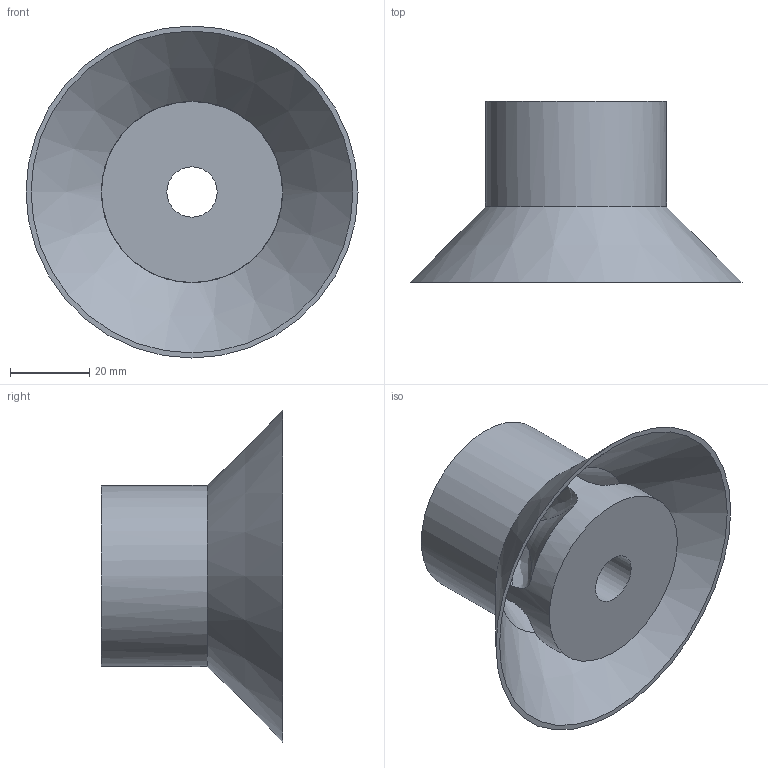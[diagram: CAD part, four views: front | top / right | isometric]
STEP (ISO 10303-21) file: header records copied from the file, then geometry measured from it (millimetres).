
FILE_DESCRIPTION(/* description */ (''),/* implementation_level */ '2;1');
FILE_NAME(/* name */ 'C:/Users/Owner/Desktop/KCAD 3Dp Fuel Filter Baffles Gen1/STEP Versions/1.8DIAx1.8 High Baffles STEP/1.8 Dia 50 CAL Baffle STEP.step',/* time_stamp */ '2019-06-01T15:56:55-04:00',/* author */ (''),/* organization */ (''),/* preprocessor_version */ 'ST-DEVELOPER v18',/* originating_system */ 'Autodesk Translation Framework v8.2.0.1029',/* authorisation */ '');
FILE_SCHEMA (('AUTOMOTIVE_DESIGN { 1 0 10303 214 3 1 1 }'));
Length unit declared in the file: inch
Products named in the file (1): baf 7 50 cal
Bounding box: 83.82 x 45.72 x 83.82 mm (x, y, z)
Volume: 56534.7 mm3; surface area: 26117.5 mm2
Topology: 1 solids, 1 shells, 36 faces, 126 edges, 85 vertices
Faces by surface type: plane 15, bspline 13, cylinder 4, cone 2, torus 2
Full cylindrical faces by diameter (mm): 12.7 x2, 45.72 x2
Entity records: 2387 total; most frequent: CARTESIAN_POINT 1396, ORIENTED_EDGE 252, DIRECTION 136, EDGE_CURVE 126, VERTEX_POINT 85, B_SPLINE_CURVE_WITH_KNOTS 70, AXIS2_PLACEMENT_3D 57, EDGE_LOOP 39
